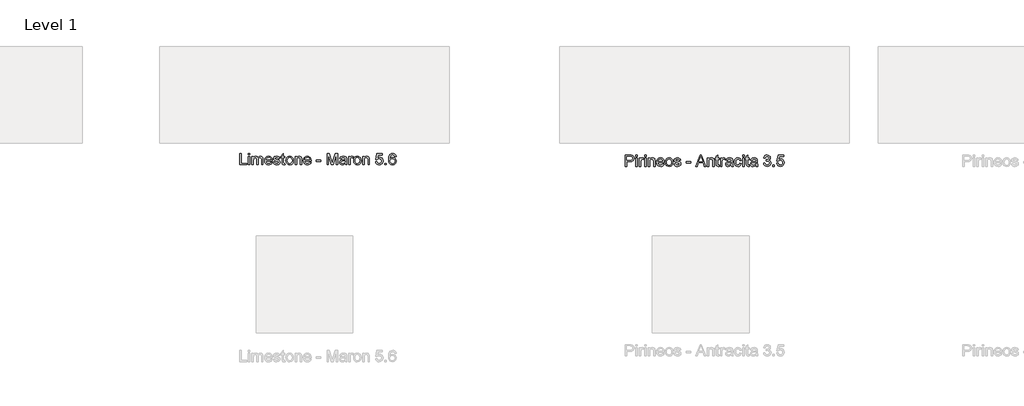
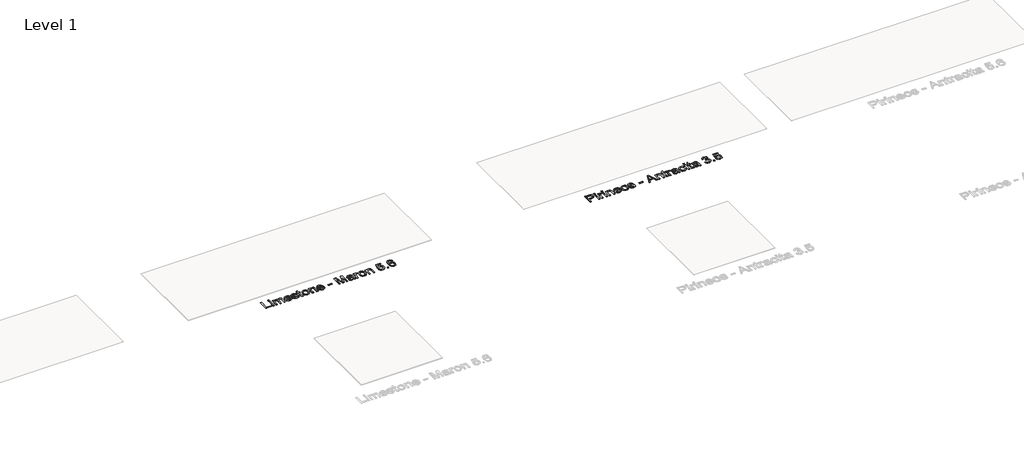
# One storey, part 42 of 80: 2 proxies.
"""IFC4 building model written with IfcOpenShell, lengths in millimetres."""

from ifc_helpers import new_model, si_unit, origin, origin_with_axes, place, context, project, spatial, polyline, outline, extrude, element, save

model = new_model("IFC4")

# Units and contexts
model_context = context("Model", 3, world=origin())
ifc_project = project(units=[si_unit("LENGTHUNIT", "METRE", prefix="MILLI")], contexts=[model_context])

# Site, building, storey
site = spatial("IfcSite", under=ifc_project)
building = spatial("IfcBuilding", under=site)
storey = spatial("IfcBuildingStorey", under=building, Name="Level 1", Elevation=0.0)

# Proxies
placement = place(None, origin())
element("IfcBuildingElementProxy", 1, Name="24\" Arial", ObjectType="24\" Arial", at=placement, inside=storey, context=model_context, shape_type="SweptSolid", body=[
    extrude(outline(polyline([(-23314.7684156, 1365.2173189), (-23314.7684156, 1483.3711651), (-23299.9991848, 1483.3711651), (-23299.9991848, 1379.9865497), (-23240.9222617, 1379.9865497), (-23240.9222617, 1365.2173189), (-23314.7684156, 1365.2173189)])), origin_with_axes(), (0.0, 0.0, 1.0), 2.0),
    extrude(outline(polyline([(-23226.153031, 1468.6019343), (-23226.153031, 1483.3711651), (-23211.3838002, 1483.3711651), (-23211.3838002, 1468.6019343), (-23226.153031, 1468.6019343)])), origin_with_axes(), (0.0, 0.0, 1.0), 2.0),
    extrude(outline(polyline([(-23226.153031, 1365.2173189), (-23226.153031, 1451.9865497), (-23211.3838002, 1451.9865497), (-23211.3838002, 1365.2173189), (-23226.153031, 1365.2173189)])), origin_with_axes(), (0.0, 0.0, 1.0), 2.0),
    extrude(outline(polyline([(-23189.2299541, 1365.2173189), (-23189.2299541, 1451.9865497), (-23174.4607233, 1451.9865497), (-23174.4607233, 1437.7077035), (-23164.3068771, 1449.4048189), (-23149.8549541, 1453.8327035), (-23135.0568771, 1449.3182805), (-23126.9222617, 1436.669242), (-23115.3982233, 1449.5418381), (-23100.8453387, 1453.8327035), (-23089.7431752, 1452.0478478), (-23081.5328387, 1446.6932805), (-23076.4595214, 1437.6247708), (-23074.7684156, 1424.6980881), (-23074.7684156, 1365.2173189), (-23089.5376464, 1365.2173189), (-23089.5376464, 1418.3519343), (-23090.9078387, 1430.6836651), (-23095.8693771, 1436.7557805), (-23104.3068771, 1439.0634728), (-23112.3080791, 1437.5851074), (-23118.8309156, 1433.1500112), (-23123.168656, 1425.4552997), (-23124.6145694, 1414.1980881), (-23124.6145694, 1365.2173189), (-23139.3838002, 1365.2173189), (-23139.3838002, 1419.9961651), (-23142.8020694, 1434.3038574), (-23154.0088002, 1439.0634728), (-23164.9414925, 1435.8903958), (-23172.2107233, 1426.6019343), (-23174.4607233, 1408.9769343), (-23174.4607233, 1365.2173189), (-23189.2299541, 1365.2173189)])), origin_with_axes(), (0.0, 0.0, 1.0), 2.0),
    extrude(outline(polyline([(-22991.8645694, 1391.0634728), (-22977.3838002, 1389.2173189), (-22982.6013483, 1378.3062612), (-22990.9270694, 1370.1500112), (-23002.1734637, 1365.0658766), (-23016.153031, 1363.3711651), (-23033.4823579, 1366.2954439), (-23046.8164925, 1375.0682805), (-23055.3188964, 1389.1199631), (-23058.153031, 1407.8807805), (-23055.2900502, 1427.2726074), (-23046.7011079, 1441.7750112), (-23033.5472617, 1450.8182805), (-23016.9895694, 1453.8327035), (-23000.9475021, 1450.825492), (-22988.1289925, 1441.8038574), (-22979.7239444, 1427.3302997), (-22976.9222617, 1407.9673189), (-22977.0088002, 1403.9865497), (-23043.3838002, 1403.9865497), (-23040.8273098, 1392.9312612), (-23034.8886079, 1384.8038574), (-23026.3176944, 1379.8062612), (-23015.8645694, 1378.1403958), (-23001.3838002, 1381.2269343), (-22991.8645694, 1391.0634728)]), holes=[polyline([(-23043.3838002, 1418.7557805), (-22991.6914925, 1418.7557805), (-22997.6049541, 1432.1403958), (-23006.215531, 1437.3327035), (-23017.0472617, 1439.0634728), (-23035.2347617, 1433.5394343), (-23040.9571175, 1427.0815016), (-23043.3838002, 1418.7557805)])]), origin_with_axes(), (0.0, 0.0, 1.0), 2.0),
    extrude(outline(polyline([(-22967.6914925, 1391.0634728), (-22952.9222617, 1392.9096266), (-22946.0857233, 1381.9480881), (-22930.4222617, 1378.1403958), (-22915.3645694, 1381.6307805), (-22910.4607233, 1389.8230881), (-22915.3934156, 1396.4577035), (-22930.5953387, 1400.669242), (-22952.8357233, 1407.8952035), (-22962.5424541, 1416.3327035), (-22965.8453387, 1428.2461651), (-22963.1914925, 1439.2509728), (-22955.9511079, 1447.6596266), (-22946.5616848, 1452.0298189), (-22933.8549541, 1453.8327035), (-22915.8838002, 1450.9336651), (-22904.4607233, 1443.0875112), (-22899.3838002, 1429.8327035), (-22914.153031, 1427.9865497), (-22919.7059156, 1436.1355881), (-22932.7011079, 1439.0634728), (-22946.8357233, 1436.2653958), (-22951.0761079, 1429.7461651), (-22949.3164925, 1425.4480881), (-22943.8068771, 1422.1884728), (-22931.0857233, 1419.044242), (-22909.4078387, 1412.0923189), (-22899.340531, 1404.2173189), (-22895.6914925, 1391.3807805), (-22899.9751464, 1377.2461651), (-22912.3357233, 1366.9913574), (-22930.6241848, 1363.3711651), (-22945.5160117, 1365.1163574), (-22956.3838002, 1370.3519343), (-22963.6386079, 1379.0202035), (-22967.6914925, 1391.0634728)])), origin_with_axes(), (0.0, 0.0, 1.0), 2.0),
    extrude(outline(polyline([(-22847.6914925, 1377.5346266), (-22845.8453387, 1364.7846266), (-22856.8934156, 1363.3711651), (-22869.2684156, 1365.8230881), (-22875.4414925, 1372.2557805), (-22877.2299541, 1389.0153958), (-22877.2299541, 1437.2173189), (-22888.3068771, 1437.2173189), (-22888.3068771, 1451.9865497), (-22877.2299541, 1451.9865497), (-22877.2299541, 1473.0730881), (-22862.4607233, 1481.7557805), (-22862.4607233, 1451.9865497), (-22847.6914925, 1451.9865497), (-22847.6914925, 1437.2173189), (-22862.4607233, 1437.2173189), (-22862.4607233, 1389.4480881), (-22861.6818771, 1381.8327035), (-22859.1578387, 1379.1355881), (-22854.1241848, 1378.1403958), (-22847.6914925, 1377.5346266)])), origin_with_axes(), (0.0, 0.0, 1.0), 2.0),
    extrude(outline(polyline([(-22836.6145694, 1408.6019343), (-22833.4198579, 1429.5226074), (-22823.8357233, 1444.2269343), (-22811.9943771, 1451.4312612), (-22797.8164925, 1453.8327035), (-22782.3008675, 1450.9084247), (-22769.9078387, 1442.1355881), (-22761.7840406, 1428.2065016), (-22759.0761079, 1409.8134728), (-22763.8645694, 1383.5346266), (-22777.8116848, 1368.6644343), (-22797.8164925, 1363.3711651), (-22813.5196175, 1366.2846266), (-22825.8982233, 1375.0250112), (-22833.9354829, 1389.2461651), (-22836.6145694, 1408.6019343)]), holes=[polyline([(-22821.8453387, 1408.6307805), (-22820.1362041, 1395.2641939), (-22815.0088002, 1385.7413574), (-22807.2924541, 1380.0406362), (-22797.8164925, 1378.1403958), (-22788.3838002, 1380.0514535), (-22780.6818771, 1385.7846266), (-22775.5544733, 1395.4336651), (-22773.8453387, 1409.0923189), (-22775.5652906, 1422.0694824), (-22780.7251464, 1431.4625112), (-22788.4378867, 1437.1632324), (-22797.8164925, 1439.0634728), (-22807.2924541, 1437.1704439), (-22815.0088002, 1431.4913574), (-22820.1362041, 1421.9901555), (-22821.8453387, 1408.6307805)])]), origin_with_axes(), (0.0, 0.0, 1.0), 2.0),
    extrude(outline(polyline([(-22742.4607233, 1365.2173189), (-22742.4607233, 1451.9865497), (-22727.6914925, 1451.9865497), (-22727.6914925, 1439.8711651), (-22716.3982233, 1450.3423189), (-22700.9799541, 1453.8327035), (-22687.0328387, 1451.0202035), (-22677.5136079, 1443.6355881), (-22673.0857233, 1432.7750112), (-22672.3068771, 1418.4961651), (-22672.3068771, 1365.2173189), (-22687.0761079, 1365.2173189), (-22687.0761079, 1416.5057805), (-22688.778031, 1429.5730881), (-22694.7924541, 1436.481742), (-22704.9318771, 1439.0634728), (-22720.9559156, 1433.2653958), (-22726.0075983, 1424.8639535), (-22727.6914925, 1411.2557805), (-22727.6914925, 1365.2173189), (-22742.4607233, 1365.2173189)])), origin_with_axes(), (0.0, 0.0, 1.0), 2.0),
    extrude(outline(polyline([(-22591.2491848, 1391.0634728), (-22576.7684156, 1389.2173189), (-22581.9859637, 1378.3062612), (-22590.3116848, 1370.1500112), (-22601.5580791, 1365.0658766), (-22615.5376464, 1363.3711651), (-22632.8669733, 1366.2954439), (-22646.2011079, 1375.0682805), (-22654.7035117, 1389.1199631), (-22657.5376464, 1407.8807805), (-22654.6746656, 1427.2726074), (-22646.0857233, 1441.7750112), (-22632.9318771, 1450.8182805), (-22616.3741848, 1453.8327035), (-22600.3321175, 1450.825492), (-22587.5136079, 1441.8038574), (-22579.1085598, 1427.3302997), (-22576.3068771, 1407.9673189), (-22576.3934156, 1403.9865497), (-22642.7684156, 1403.9865497), (-22640.2119252, 1392.9312612), (-22634.2732233, 1384.8038574), (-22625.7023098, 1379.8062612), (-22615.2491848, 1378.1403958), (-22600.7684156, 1381.2269343), (-22591.2491848, 1391.0634728)]), holes=[polyline([(-22642.7684156, 1418.7557805), (-22591.0761079, 1418.7557805), (-22596.9895694, 1432.1403958), (-22605.6001464, 1437.3327035), (-22616.4318771, 1439.0634728), (-22634.6193771, 1433.5394343), (-22640.3417329, 1427.0815016), (-22642.7684156, 1418.7557805)])]), origin_with_axes(), (0.0, 0.0, 1.0), 2.0),
    extrude(outline(polyline([(-22522.7684156, 1400.294242), (-22522.7684156, 1415.0634728), (-22476.6145694, 1415.0634728), (-22476.6145694, 1400.294242), (-22522.7684156, 1400.294242)])), origin_with_axes(), (0.0, 0.0, 1.0), 2.0),
    extrude(outline(polyline([(-22411.9991848, 1365.2173189), (-22411.9991848, 1483.3711651), (-22386.5857233, 1483.3711651), (-22362.4126464, 1400.0923189), (-22357.5376464, 1382.6980881), (-22352.2588002, 1401.5346266), (-22328.4895694, 1483.3711651), (-22303.0761079, 1483.3711651), (-22303.0761079, 1365.2173189), (-22317.8453387, 1365.2173189), (-22317.8453387, 1468.6019343), (-22347.528031, 1365.2173189), (-22367.5472617, 1365.2173189), (-22397.2299541, 1468.6019343), (-22397.2299541, 1365.2173189), (-22411.9991848, 1365.2173189)])), origin_with_axes(), (0.0, 0.0, 1.0), 2.0),
    extrude(outline(polyline([(-22223.6914925, 1376.294242), (-22238.0136079, 1366.2846266), (-22253.8357233, 1363.3711651), (-22266.1782714, 1365.1235689), (-22275.2828387, 1370.3807805), (-22280.8970214, 1378.3639535), (-22282.7684156, 1388.294242), (-22279.9414925, 1399.9769343), (-22272.5136079, 1408.4577035), (-22262.1722617, 1413.3038574), (-22249.3934156, 1415.5250112), (-22223.778031, 1420.6019343), (-22223.6914925, 1423.8903958), (-22227.7588002, 1434.794242), (-22244.0857233, 1439.0634728), (-22259.028031, 1436.2221266), (-22266.153031, 1426.1403958), (-22280.9222617, 1427.9865497), (-22274.5328387, 1442.4096266), (-22261.6674541, 1450.8615497), (-22242.1818771, 1453.8327035), (-22224.2828387, 1451.2077035), (-22214.1722617, 1444.6163574), (-22209.6434156, 1434.5923189), (-22208.9222617, 1421.669242), (-22208.9222617, 1403.294242), (-22208.1722617, 1377.6355881), (-22205.2299541, 1365.2173189), (-22219.9991848, 1365.2173189), (-22223.6914925, 1376.294242)]), holes=[polyline([(-22223.6914925, 1405.8327035), (-22247.5184156, 1401.3038574), (-22260.2251464, 1398.9096266), (-22265.9799541, 1395.0153958), (-22267.9991848, 1389.3327035), (-22263.6001464, 1381.3423189), (-22250.6914925, 1378.1403958), (-22235.7491848, 1381.6740497), (-22226.1145694, 1390.2269343), (-22223.778031, 1401.6500112), (-22223.6914925, 1405.8327035)])]), origin_with_axes(), (0.0, 0.0, 1.0), 2.0),
    extrude(outline(polyline([(-22188.6145694, 1365.2173189), (-22188.6145694, 1451.9865497), (-22175.6914925, 1451.9865497), (-22175.6914925, 1439.1500112), (-22166.5184156, 1450.9769343), (-22157.2876464, 1453.8327035), (-22142.4607233, 1449.2750112), (-22147.3934156, 1436.0346266), (-22157.778031, 1439.0634728), (-22166.1289925, 1436.1500112), (-22171.4511079, 1428.0730881), (-22173.8453387, 1410.8230881), (-22173.8453387, 1365.2173189), (-22188.6145694, 1365.2173189)])), origin_with_axes(), (0.0, 0.0, 1.0), 2.0),
    extrude(outline(polyline([(-22136.9222617, 1408.6019343), (-22133.7275502, 1429.5226074), (-22124.1434156, 1444.2269343), (-22112.3020694, 1451.4312612), (-22098.1241848, 1453.8327035), (-22082.6085598, 1450.9084247), (-22070.215531, 1442.1355881), (-22062.0917329, 1428.2065016), (-22059.3838002, 1409.8134728), (-22064.1722617, 1383.5346266), (-22078.1193771, 1368.6644343), (-22098.1241848, 1363.3711651), (-22113.8273098, 1366.2846266), (-22126.2059156, 1375.0250112), (-22134.2431752, 1389.2461651), (-22136.9222617, 1408.6019343)]), holes=[polyline([(-22122.153031, 1408.6307805), (-22120.4438964, 1395.2641939), (-22115.3164925, 1385.7413574), (-22107.6001464, 1380.0406362), (-22098.1241848, 1378.1403958), (-22088.6914925, 1380.0514535), (-22080.9895694, 1385.7846266), (-22075.8621656, 1395.4336651), (-22074.153031, 1409.0923189), (-22075.8729829, 1422.0694824), (-22081.0328387, 1431.4625112), (-22088.7455791, 1437.1632324), (-22098.1241848, 1439.0634728), (-22107.6001464, 1437.1704439), (-22115.3164925, 1431.4913574), (-22120.4438964, 1421.9901555), (-22122.153031, 1408.6307805)])]), origin_with_axes(), (0.0, 0.0, 1.0), 2.0),
    extrude(outline(polyline([(-22042.7684156, 1365.2173189), (-22042.7684156, 1451.9865497), (-22027.9991848, 1451.9865497), (-22027.9991848, 1439.8711651), (-22016.7059156, 1450.3423189), (-22001.2876464, 1453.8327035), (-21987.340531, 1451.0202035), (-21977.8213002, 1443.6355881), (-21973.3934156, 1432.7750112), (-21972.6145694, 1418.4961651), (-21972.6145694, 1365.2173189), (-21987.3838002, 1365.2173189), (-21987.3838002, 1416.5057805), (-21989.0857233, 1429.5730881), (-21995.1001464, 1436.481742), (-22005.2395694, 1439.0634728), (-22021.2636079, 1433.2653958), (-22026.3152906, 1424.8639535), (-22027.9991848, 1411.2557805), (-22027.9991848, 1365.2173189), (-22042.7684156, 1365.2173189)])), origin_with_axes(), (0.0, 0.0, 1.0), 2.0),
    extrude(outline(polyline([(-21909.8453387, 1396.6019343), (-21895.0761079, 1398.4480881), (-21887.6338002, 1383.231742), (-21872.2011079, 1378.1403958), (-21861.6145694, 1379.9108285), (-21853.6818771, 1385.2221266), (-21848.7275502, 1393.4613093), (-21847.0761079, 1404.0153958), (-21848.6229829, 1413.9528958), (-21853.2636079, 1421.5538574), (-21861.0340406, 1426.3783766), (-21871.9703387, 1427.9865497), (-21884.9366848, 1425.419242), (-21893.2299541, 1418.7557805), (-21907.9991848, 1420.6019343), (-21895.0761079, 1481.5250112), (-21837.8453387, 1481.5250112), (-21837.8453387, 1466.7557805), (-21883.1338002, 1466.7557805), (-21889.4511079, 1434.2173189), (-21878.9006271, 1440.6211651), (-21867.8453387, 1442.7557805), (-21854.0460598, 1440.1091458), (-21842.590531, 1432.169242), (-21834.8777906, 1420.0682805), (-21832.3068771, 1404.9384728), (-21834.621781, 1390.169242), (-21841.5664925, 1377.5346266), (-21854.8645694, 1366.9120305), (-21872.2588002, 1363.3711651), (-21886.7648098, 1365.6464055), (-21898.3213002, 1372.4721266), (-21906.2431752, 1383.0550593), (-21909.8453387, 1396.6019343)])), origin_with_axes(), (0.0, 0.0, 1.0), 2.0),
    extrude(outline(polyline([(-21811.9991848, 1365.2173189), (-21811.9991848, 1379.9865497), (-21797.2299541, 1379.9865497), (-21797.2299541, 1365.2173189), (-21811.9991848, 1365.2173189)])), origin_with_axes(), (0.0, 0.0, 1.0), 2.0),
    extrude(outline(polyline([(-21697.5376464, 1451.9865497), (-21712.3068771, 1450.1403958), (-21717.903031, 1462.4577035), (-21724.6025502, 1467.0658766), (-21732.7011079, 1468.6019343), (-21746.028031, 1465.0250112), (-21756.1097617, 1451.5971266), (-21760.3068771, 1425.2750112), (-21747.2828387, 1437.0586651), (-21731.1434156, 1440.9096266), (-21717.4991848, 1438.2774151), (-21706.0472617, 1430.3807805), (-21698.2804348, 1418.3158766), (-21695.6914925, 1403.1788574), (-21700.5664925, 1382.7990497), (-21713.9799541, 1368.3759728), (-21733.3357233, 1363.3711651), (-21750.0917329, 1366.6884728), (-21763.4366848, 1376.6403958), (-21772.1662521, 1394.2077035), (-21775.0761079, 1420.3711651), (-21771.8453387, 1449.7870305), (-21762.153031, 1469.9000112), (-21748.9198579, 1480.0033766), (-21731.778031, 1483.3711651), (-21718.8188964, 1481.2870305), (-21708.4414925, 1475.0346266), (-21701.1722617, 1465.1043381), (-21697.5376464, 1451.9865497)]), holes=[polyline([(-21760.3068771, 1403.4096266), (-21756.8886079, 1390.6163574), (-21747.8020694, 1381.3278958), (-21734.4895694, 1378.1403958), (-21724.7431752, 1379.7918381), (-21717.0809156, 1384.7461651), (-21712.1157714, 1392.5346266), (-21710.4607233, 1402.6884728), (-21712.0941367, 1412.434867), (-21716.9943771, 1419.8663574), (-21724.7864444, 1424.5718862), (-21735.0953387, 1426.1403958), (-21744.8273098, 1424.5718862), (-21752.965531, 1419.8663574), (-21758.4715406, 1412.6151555), (-21760.3068771, 1403.4096266)])]), origin_with_axes(), (0.0, 0.0, 1.0), 2.0),
])
element("IfcBuildingElementProxy", 2, Name="24\" Arial", ObjectType="24\" Arial", at=placement, inside=storey, context=model_context, shape_type="SweptSolid", body=[
    extrude(outline(polyline([(-19323.3838002, 1348.728562), (-19323.3838002, 1466.8824082), (-19279.5953387, 1466.8824082), (-19261.9414925, 1465.7574082), (-19247.590531, 1460.2333697), (-19238.2876464, 1448.8102928), (-19234.7684156, 1432.6997159), (-19237.1446175, 1418.7742351), (-19244.2732233, 1407.1708697), (-19257.6037521, 1399.339139), (-19278.5857233, 1396.728562), (-19308.6145694, 1396.728562), (-19308.6145694, 1348.728562), (-19323.3838002, 1348.728562)]), holes=[polyline([(-19308.6145694, 1411.4977928), (-19277.7203387, 1411.4977928), (-19264.6241848, 1412.853562), (-19255.9703387, 1416.9208697), (-19251.1458194, 1423.447312), (-19249.5376464, 1432.1804851), (-19253.3309156, 1444.4112544), (-19263.2972617, 1451.103562), (-19278.0664925, 1452.1131774), (-19308.6145694, 1452.1131774), (-19308.6145694, 1411.4977928)])]), origin_with_axes(), (0.0, 0.0, 1.0), 2.0),
    extrude(outline(polyline([(-19216.3068771, 1348.728562), (-19216.3068771, 1435.4977928), (-19201.5376464, 1435.4977928), (-19201.5376464, 1348.728562), (-19216.3068771, 1348.728562)])), origin_with_axes(), (0.0, 0.0, 1.0), 2.0),
    extrude(outline(polyline([(-19216.3068771, 1452.1131774), (-19216.3068771, 1466.8824082), (-19201.5376464, 1466.8824082), (-19201.5376464, 1452.1131774), (-19216.3068771, 1452.1131774)])), origin_with_axes(), (0.0, 0.0, 1.0), 2.0),
    extrude(outline(polyline([(-19179.3838002, 1348.728562), (-19179.3838002, 1435.4977928), (-19166.4607233, 1435.4977928), (-19166.4607233, 1422.6612544), (-19157.2876464, 1434.4881774), (-19148.0568771, 1437.3439467), (-19133.2299541, 1432.7862544), (-19138.1626464, 1419.5458697), (-19148.5472617, 1422.5747159), (-19156.8982233, 1419.6612544), (-19162.2203387, 1411.5843313), (-19164.6145694, 1394.3343313), (-19164.6145694, 1348.728562), (-19179.3838002, 1348.728562)])), origin_with_axes(), (0.0, 0.0, 1.0), 2.0),
    extrude(outline(polyline([(-19123.9991848, 1348.728562), (-19123.9991848, 1435.4977928), (-19109.2299541, 1435.4977928), (-19109.2299541, 1348.728562), (-19123.9991848, 1348.728562)])), origin_with_axes(), (0.0, 0.0, 1.0), 2.0),
    extrude(outline(polyline([(-19123.9991848, 1452.1131774), (-19123.9991848, 1466.8824082), (-19109.2299541, 1466.8824082), (-19109.2299541, 1452.1131774), (-19123.9991848, 1452.1131774)])), origin_with_axes(), (0.0, 0.0, 1.0), 2.0),
    extrude(outline(polyline([(-19087.0761079, 1348.728562), (-19087.0761079, 1435.4977928), (-19072.3068771, 1435.4977928), (-19072.3068771, 1423.3824082), (-19061.0136079, 1433.853562), (-19045.5953387, 1437.3439467), (-19031.6482233, 1434.5314467), (-19022.1289925, 1427.1468313), (-19017.7011079, 1416.2862544), (-19016.9222617, 1402.0074082), (-19016.9222617, 1348.728562), (-19031.6914925, 1348.728562), (-19031.6914925, 1400.0170236), (-19033.3934156, 1413.0843313), (-19039.4078387, 1419.9929851), (-19049.5472617, 1422.5747159), (-19065.5713002, 1416.776639), (-19070.6229829, 1408.3751967), (-19072.3068771, 1394.7670236), (-19072.3068771, 1348.728562), (-19087.0761079, 1348.728562)])), origin_with_axes(), (0.0, 0.0, 1.0), 2.0),
    extrude(outline(polyline([(-18935.8645694, 1374.5747159), (-18921.3838002, 1372.728562), (-18926.6013483, 1361.8175044), (-18934.9270694, 1353.6612544), (-18946.1734637, 1348.5771197), (-18960.153031, 1346.8824082), (-18977.4823579, 1349.806687), (-18990.8164925, 1358.5795236), (-18999.3188964, 1372.6312063), (-19002.153031, 1391.3920236), (-18999.2900502, 1410.7838505), (-18990.7011079, 1425.2862544), (-18977.5472617, 1434.3295236), (-18960.9895694, 1437.3439467), (-18944.9475021, 1434.3367351), (-18932.1289925, 1425.3151005), (-18923.7239444, 1410.8415428), (-18920.9222617, 1391.478562), (-18921.0088002, 1387.4977928), (-18987.3838002, 1387.4977928), (-18984.8273098, 1376.4425044), (-18978.8886079, 1368.3151005), (-18970.3176944, 1363.3175044), (-18959.8645694, 1361.651639), (-18945.3838002, 1364.7381774), (-18935.8645694, 1374.5747159)]), holes=[polyline([(-18987.3838002, 1402.2670236), (-18935.6914925, 1402.2670236), (-18941.6049541, 1415.651639), (-18950.215531, 1420.8439467), (-18961.0472617, 1422.5747159), (-18979.2347617, 1417.0506774), (-18984.9571175, 1410.5927447), (-18987.3838002, 1402.2670236)])]), origin_with_axes(), (0.0, 0.0, 1.0), 2.0),
    extrude(outline(polyline([(-18909.8453387, 1392.1131774), (-18906.6506271, 1413.0338505), (-18897.0664925, 1427.7381774), (-18885.2251464, 1434.9425044), (-18871.0472617, 1437.3439467), (-18855.5316367, 1434.4196678), (-18843.1386079, 1425.6468313), (-18835.0148098, 1411.7177447), (-18832.3068771, 1393.3247159), (-18837.0953387, 1367.0458697), (-18851.0424541, 1352.1756774), (-18871.0472617, 1346.8824082), (-18886.7503867, 1349.7958697), (-18899.1289925, 1358.5362544), (-18907.1662521, 1372.7574082), (-18909.8453387, 1392.1131774)]), holes=[polyline([(-18895.0761079, 1392.1420236), (-18893.3669733, 1378.775437), (-18888.2395694, 1369.2526005), (-18880.5232233, 1363.5518794), (-18871.0472617, 1361.651639), (-18861.6145694, 1363.5626967), (-18853.9126464, 1369.2958697), (-18848.7852425, 1378.9449082), (-18847.0761079, 1392.603562), (-18848.7960598, 1405.5807255), (-18853.9559156, 1414.9737544), (-18861.668656, 1420.6744755), (-18871.0472617, 1422.5747159), (-18880.5232233, 1420.681687), (-18888.2395694, 1415.0026005), (-18893.3669733, 1405.5013986), (-18895.0761079, 1392.1420236)])]), origin_with_axes(), (0.0, 0.0, 1.0), 2.0),
    extrude(outline(polyline([(-18821.2299541, 1374.5747159), (-18806.4607233, 1376.4208697), (-18799.6241848, 1365.4593313), (-18783.9607233, 1361.651639), (-18768.903031, 1365.1420236), (-18763.9991848, 1373.3343313), (-18768.9318771, 1379.9689467), (-18784.1338002, 1384.1804851), (-18806.3741848, 1391.4064467), (-18816.0809156, 1399.8439467), (-18819.3838002, 1411.7574082), (-18816.7299541, 1422.7622159), (-18809.4895694, 1431.1708697), (-18800.1001464, 1435.541062), (-18787.3934156, 1437.3439467), (-18769.4222617, 1434.4449082), (-18757.9991848, 1426.5987544), (-18752.9222617, 1413.3439467), (-18767.6914925, 1411.4977928), (-18773.2443771, 1419.6468313), (-18786.2395694, 1422.5747159), (-18800.3741848, 1419.776639), (-18804.6145694, 1413.2574082), (-18802.8549541, 1408.9593313), (-18797.3453387, 1405.6997159), (-18784.6241848, 1402.5554851), (-18762.9463002, 1395.603562), (-18752.8789925, 1387.728562), (-18749.2299541, 1374.8920236), (-18753.5136079, 1360.7574082), (-18765.8741848, 1350.5026005), (-18784.1626464, 1346.8824082), (-18799.0544733, 1348.6276005), (-18809.9222617, 1353.8631774), (-18817.1770694, 1362.5314467), (-18821.2299541, 1374.5747159)])), origin_with_axes(), (0.0, 0.0, 1.0), 2.0),
    extrude(outline(polyline([(-18693.8453387, 1383.8054851), (-18693.8453387, 1398.5747159), (-18647.6914925, 1398.5747159), (-18647.6914925, 1383.8054851), (-18693.8453387, 1383.8054851)])), origin_with_axes(), (0.0, 0.0, 1.0), 2.0),
    extrude(outline(polyline([(-18596.8357233, 1348.728562), (-18549.6722617, 1466.8824082), (-18537.0953387, 1466.8824082), (-18489.9318771, 1348.728562), (-18505.5376464, 1348.728562), (-18519.0664925, 1385.651639), (-18567.7299541, 1385.651639), (-18581.2299541, 1348.728562), (-18596.8357233, 1348.728562)]), holes=[polyline([(-18562.3068771, 1400.4208697), (-18524.4607233, 1400.4208697), (-18535.1049541, 1429.4689467), (-18543.3838002, 1452.1131774), (-18550.7395694, 1432.0074082), (-18562.3068771, 1400.4208697)])]), origin_with_axes(), (0.0, 0.0, 1.0), 2.0),
    extrude(outline(polyline([(-18475.9991848, 1348.728562), (-18475.9991848, 1435.4977928), (-18461.2299541, 1435.4977928), (-18461.2299541, 1423.3824082), (-18449.9366848, 1433.853562), (-18434.5184156, 1437.3439467), (-18420.5713002, 1434.5314467), (-18411.0520694, 1427.1468313), (-18406.6241848, 1416.2862544), (-18405.8453387, 1402.0074082), (-18405.8453387, 1348.728562), (-18420.6145694, 1348.728562), (-18420.6145694, 1400.0170236), (-18422.3164925, 1413.0843313), (-18428.3309156, 1419.9929851), (-18438.4703387, 1422.5747159), (-18454.4943771, 1416.776639), (-18459.5460598, 1408.3751967), (-18461.2299541, 1394.7670236), (-18461.2299541, 1348.728562), (-18475.9991848, 1348.728562)])), origin_with_axes(), (0.0, 0.0, 1.0), 2.0),
    extrude(outline(polyline([(-18354.153031, 1361.0458697), (-18352.3068771, 1348.2958697), (-18363.3549541, 1346.8824082), (-18375.7299541, 1349.3343313), (-18381.903031, 1355.7670236), (-18383.6914925, 1372.526639), (-18383.6914925, 1420.728562), (-18394.7684156, 1420.728562), (-18394.7684156, 1435.4977928), (-18383.6914925, 1435.4977928), (-18383.6914925, 1456.5843313), (-18368.9222617, 1465.2670236), (-18368.9222617, 1435.4977928), (-18354.153031, 1435.4977928), (-18354.153031, 1420.728562), (-18368.9222617, 1420.728562), (-18368.9222617, 1372.9593313), (-18368.1434156, 1365.3439467), (-18365.6193771, 1362.6468313), (-18360.5857233, 1361.651639), (-18354.153031, 1361.0458697)])), origin_with_axes(), (0.0, 0.0, 1.0), 2.0),
    extrude(outline(polyline([(-18339.3838002, 1348.728562), (-18339.3838002, 1435.4977928), (-18326.4607233, 1435.4977928), (-18326.4607233, 1422.6612544), (-18317.2876464, 1434.4881774), (-18308.0568771, 1437.3439467), (-18293.2299541, 1432.7862544), (-18298.1626464, 1419.5458697), (-18308.5472617, 1422.5747159), (-18316.8982233, 1419.6612544), (-18322.2203387, 1411.5843313), (-18324.6145694, 1394.3343313), (-18324.6145694, 1348.728562), (-18339.3838002, 1348.728562)])), origin_with_axes(), (0.0, 0.0, 1.0), 2.0),
    extrude(outline(polyline([(-18228.6145694, 1359.8054851), (-18242.9366848, 1349.7958697), (-18258.7588002, 1346.8824082), (-18271.1013483, 1348.634812), (-18280.2059156, 1353.8920236), (-18285.8200983, 1361.8751967), (-18287.6914925, 1371.8054851), (-18284.8645694, 1383.4881774), (-18277.4366848, 1391.9689467), (-18267.0953387, 1396.8151005), (-18254.3164925, 1399.0362544), (-18228.7011079, 1404.1131774), (-18228.6145694, 1407.401639), (-18232.6818771, 1418.3054851), (-18249.0088002, 1422.5747159), (-18263.9511079, 1419.7333697), (-18271.0761079, 1409.651639), (-18285.8453387, 1411.4977928), (-18279.4559156, 1425.9208697), (-18266.590531, 1434.3727928), (-18247.1049541, 1437.3439467), (-18229.2059156, 1434.7189467), (-18219.0953387, 1428.1276005), (-18214.5664925, 1418.103562), (-18213.8453387, 1405.1804851), (-18213.8453387, 1386.8054851), (-18213.0953387, 1361.1468313), (-18210.153031, 1348.728562), (-18224.9222617, 1348.728562), (-18228.6145694, 1359.8054851)]), holes=[polyline([(-18228.6145694, 1389.3439467), (-18252.4414925, 1384.8151005), (-18265.1482233, 1382.4208697), (-18270.903031, 1378.526639), (-18272.9222617, 1372.8439467), (-18268.5232233, 1364.853562), (-18255.6145694, 1361.651639), (-18240.6722617, 1365.1852928), (-18231.0376464, 1373.7381774), (-18228.7011079, 1385.1612544), (-18228.6145694, 1389.3439467)])]), origin_with_axes(), (0.0, 0.0, 1.0), 2.0),
    extrude(outline(polyline([(-18138.153031, 1380.1131774), (-18123.3838002, 1378.2670236), (-18127.5015887, 1365.1312063), (-18135.2395694, 1355.2045236), (-18145.8693771, 1348.962937), (-18158.6626464, 1346.8824082), (-18174.3729829, 1349.7850524), (-18186.6578387, 1358.4929851), (-18194.5869252, 1372.6239947), (-18197.2299541, 1391.7958697), (-18192.715531, 1416.3295236), (-18187.0184156, 1425.5278409), (-18178.9559156, 1432.0939467), (-18158.8645694, 1437.3439467), (-18146.3850021, 1435.541062), (-18136.4078387, 1430.1324082), (-18129.2503867, 1421.4064467), (-18125.2299541, 1409.651639), (-18139.9991848, 1407.8054851), (-18146.8501464, 1418.8679851), (-18158.7491848, 1422.5747159), (-18168.293656, 1420.7501967), (-18175.8693771, 1415.276639), (-18180.8128867, 1405.8583697), (-18182.4607233, 1392.1997159), (-18180.8489444, 1378.3571678), (-18176.0136079, 1368.9064467), (-18168.574906, 1363.4653409), (-18159.153031, 1361.651639), (-18145.2347617, 1366.1804851), (-18138.153031, 1380.1131774)])), origin_with_axes(), (0.0, 0.0, 1.0), 2.0),
    extrude(outline(polyline([(-18110.4607233, 1348.728562), (-18110.4607233, 1435.4977928), (-18095.6914925, 1435.4977928), (-18095.6914925, 1348.728562), (-18110.4607233, 1348.728562)])), origin_with_axes(), (0.0, 0.0, 1.0), 2.0),
    extrude(outline(polyline([(-18110.4607233, 1452.1131774), (-18110.4607233, 1466.8824082), (-18095.6914925, 1466.8824082), (-18095.6914925, 1452.1131774), (-18110.4607233, 1452.1131774)])), origin_with_axes(), (0.0, 0.0, 1.0), 2.0),
    extrude(outline(polyline([(-18042.153031, 1361.0458697), (-18040.3068771, 1348.2958697), (-18051.3549541, 1346.8824082), (-18063.7299541, 1349.3343313), (-18069.903031, 1355.7670236), (-18071.6914925, 1372.526639), (-18071.6914925, 1420.728562), (-18082.7684156, 1420.728562), (-18082.7684156, 1435.4977928), (-18071.6914925, 1435.4977928), (-18071.6914925, 1456.5843313), (-18056.9222617, 1465.2670236), (-18056.9222617, 1435.4977928), (-18042.153031, 1435.4977928), (-18042.153031, 1420.728562), (-18056.9222617, 1420.728562), (-18056.9222617, 1372.9593313), (-18056.1434156, 1365.3439467), (-18053.6193771, 1362.6468313), (-18048.5857233, 1361.651639), (-18042.153031, 1361.0458697)])), origin_with_axes(), (0.0, 0.0, 1.0), 2.0),
    extrude(outline(polyline([(-17971.9991848, 1359.8054851), (-17986.3213002, 1349.7958697), (-18002.1434156, 1346.8824082), (-18014.4859637, 1348.634812), (-18023.590531, 1353.8920236), (-18029.2047137, 1361.8751967), (-18031.0761079, 1371.8054851), (-18028.2491848, 1383.4881774), (-18020.8213002, 1391.9689467), (-18010.4799541, 1396.8151005), (-17997.7011079, 1399.0362544), (-17972.0857233, 1404.1131774), (-17971.9991848, 1407.401639), (-17976.0664925, 1418.3054851), (-17992.3934156, 1422.5747159), (-18007.3357233, 1419.7333697), (-18014.4607233, 1409.651639), (-18029.2299541, 1411.4977928), (-18022.840531, 1425.9208697), (-18009.9751464, 1434.3727928), (-17990.4895694, 1437.3439467), (-17972.590531, 1434.7189467), (-17962.4799541, 1428.1276005), (-17957.9511079, 1418.103562), (-17957.2299541, 1405.1804851), (-17957.2299541, 1386.8054851), (-17956.4799541, 1361.1468313), (-17953.5376464, 1348.728562), (-17968.3068771, 1348.728562), (-17971.9991848, 1359.8054851)]), holes=[polyline([(-17971.9991848, 1389.3439467), (-17995.8261079, 1384.8151005), (-18008.5328387, 1382.4208697), (-18014.2876464, 1378.526639), (-18016.3068771, 1372.8439467), (-18011.9078387, 1364.853562), (-17998.9991848, 1361.651639), (-17984.0568771, 1365.1852928), (-17974.4222617, 1373.7381774), (-17972.0857233, 1385.1612544), (-17971.9991848, 1389.3439467)])]), origin_with_axes(), (0.0, 0.0, 1.0), 2.0),
    extrude(outline(polyline([(-17894.4607233, 1380.1131774), (-17879.6914925, 1381.9593313), (-17871.5424541, 1366.4112544), (-17856.2972617, 1361.651639), (-17846.1722617, 1363.2886582), (-17838.3549541, 1368.1997159), (-17833.3573579, 1375.526639), (-17831.6914925, 1384.4112544), (-17833.3429348, 1392.8451486), (-17838.2972617, 1399.6852928), (-17845.7972617, 1404.2177447), (-17855.0857233, 1405.728562), (-17865.4414925, 1404.1131774), (-17863.7972617, 1418.8824082), (-17861.4318771, 1418.7093313), (-17844.6722617, 1422.9497159), (-17839.090531, 1428.3295236), (-17837.2299541, 1435.9881774), (-17842.6241848, 1447.541062), (-17856.528031, 1452.1131774), (-17870.6049541, 1447.4977928), (-17877.8453387, 1433.651639), (-17892.6145694, 1435.4977928), (-17888.2660117, 1448.759812), (-17880.528031, 1458.6612544), (-17869.9414925, 1464.8271197), (-17857.0472617, 1466.8824082), (-17839.2347617, 1462.8295236), (-17826.7732233, 1451.7526005), (-17822.4607233, 1436.853562), (-17826.5568771, 1423.2381774), (-17838.6722617, 1413.4593313), (-17829.4270694, 1409.7237544), (-17822.5761079, 1403.3631774), (-17818.3357233, 1394.7237544), (-17816.9222617, 1384.151639), (-17819.7491848, 1369.7574082), (-17828.2299541, 1357.728562), (-17841.0304348, 1349.5939467), (-17856.8164925, 1346.8824082), (-17871.0953387, 1349.197312), (-17882.7203387, 1356.1420236), (-17890.8044733, 1366.7646197), (-17894.4607233, 1380.1131774)])), origin_with_axes(), (0.0, 0.0, 1.0), 2.0),
    extrude(outline(polyline([(-17796.6145694, 1348.728562), (-17796.6145694, 1363.4977928), (-17781.8453387, 1363.4977928), (-17781.8453387, 1348.728562), (-17796.6145694, 1348.728562)])), origin_with_axes(), (0.0, 0.0, 1.0), 2.0),
    extrude(outline(polyline([(-17757.8453387, 1380.1131774), (-17743.0761079, 1381.9593313), (-17735.6338002, 1366.7429851), (-17720.2011079, 1361.651639), (-17709.6145694, 1363.4220717), (-17701.6818771, 1368.7333697), (-17696.7275502, 1376.9725524), (-17695.0761079, 1387.526639), (-17696.6229829, 1397.464139), (-17701.2636079, 1405.0651005), (-17709.0340406, 1409.8896197), (-17719.9703387, 1411.4977928), (-17732.9366848, 1408.9304851), (-17741.2299541, 1402.2670236), (-17755.9991848, 1404.1131774), (-17743.0761079, 1465.0362544), (-17685.8453387, 1465.0362544), (-17685.8453387, 1450.2670236), (-17731.1338002, 1450.2670236), (-17737.4511079, 1417.728562), (-17726.9006271, 1424.1324082), (-17715.8453387, 1426.2670236), (-17702.0460598, 1423.620389), (-17690.590531, 1415.6804851), (-17682.8777906, 1403.5795236), (-17680.3068771, 1388.4497159), (-17682.621781, 1373.6804851), (-17689.5664925, 1361.0458697), (-17702.8645694, 1350.4232736), (-17720.2588002, 1346.8824082), (-17734.7648098, 1349.1576486), (-17746.3213002, 1355.9833697), (-17754.2431752, 1366.5663024), (-17757.8453387, 1380.1131774)])), origin_with_axes(), (0.0, 0.0, 1.0), 2.0),
])

save(model, "model.ifc")
